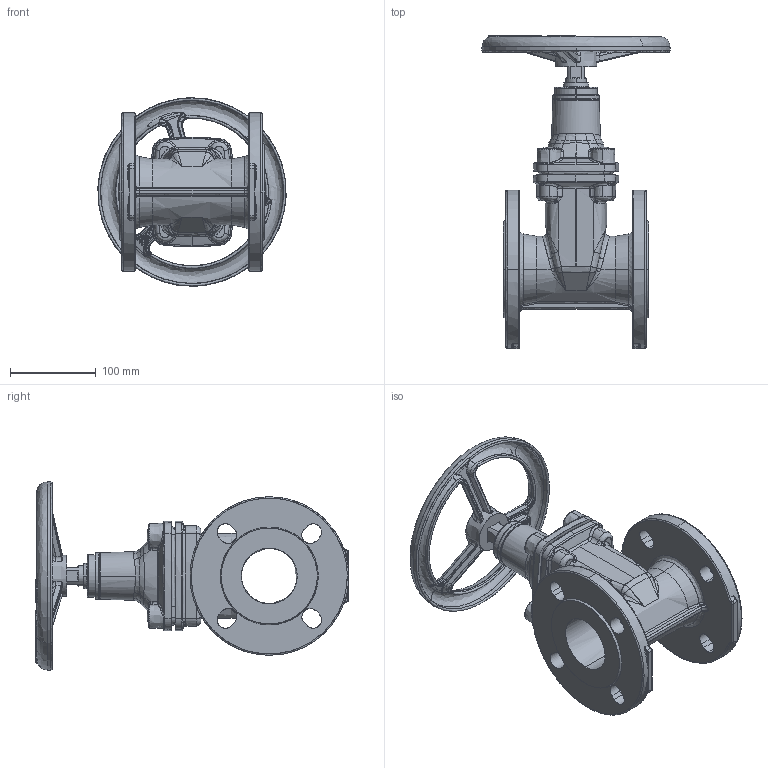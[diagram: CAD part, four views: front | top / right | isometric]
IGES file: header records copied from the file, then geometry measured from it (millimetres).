
Start section: SolidWorks IGES file using analytic representation for surfaces
Global section: file name: H:\BE BIBLIOTHEQUE 3D\BE SECTION 09 - ROBINETS ADDUCTION EAU\VO - Vanne opercule caoutchouc\VOC 4241C\JINMAO\CAO\VOC4241C-00\DN 65\VOC4241C-00EP0065.IGS; native system: SolidWorks 2020; preprocessor: SolidWorks 2020; author: k.gigout; date: 211117.161748; units: millimetre
Bounding box: 219.79 x 365.5 x 220 mm (x, y, z)
Surface area: 333664.2 mm2 (no closed solid volume)
Topology: 0 solids, 0 shells, 945 faces, 10791 edges, 10784 vertices
Faces by surface type: bspline 747, revolution 198
